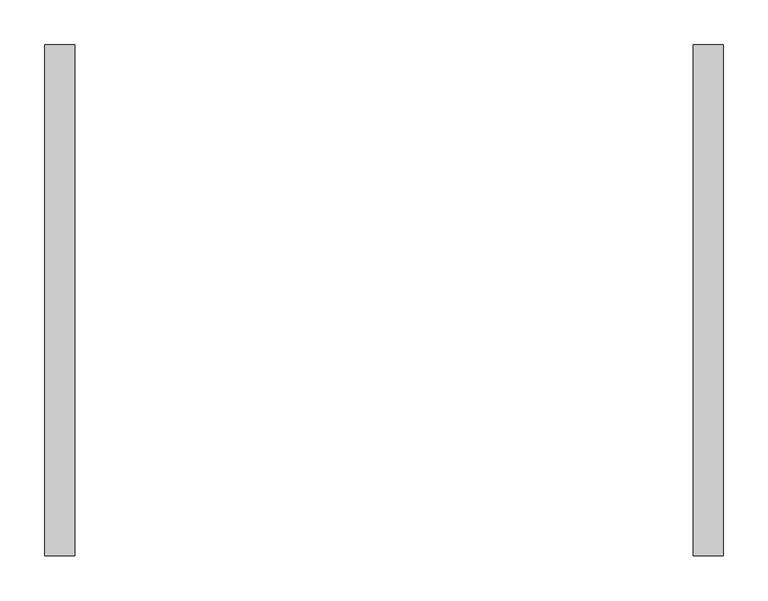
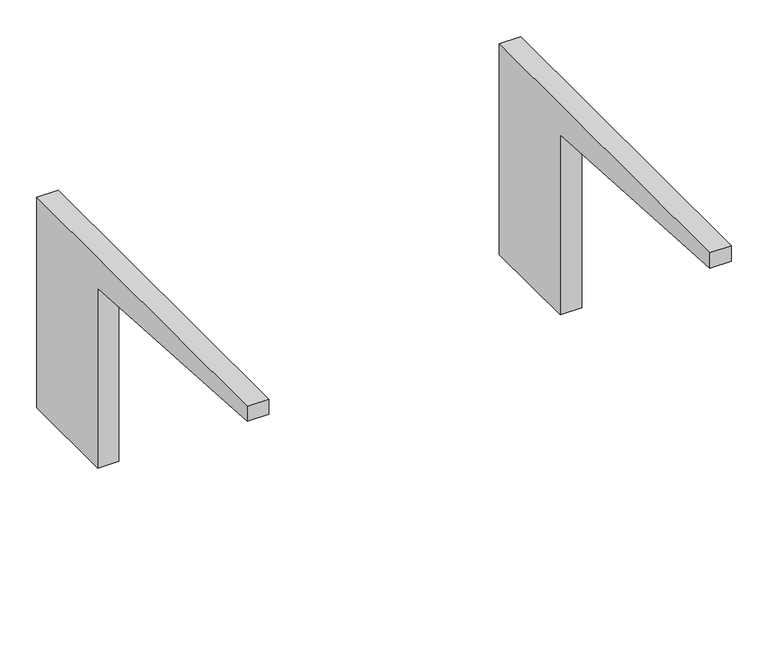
"""IFC4 building model written with IfcOpenShell, lengths in millimetres: furniture geometry, HermanMiller_CoStruc_C2140R_WorkSurfaceSupport_ComponentAdaptorReady : 14H x 24D x 30W."""

from ifc_helpers import new_model, si_unit, point, frame, frame_2d, origin, place, context, project, spatial, polyline, circle_curve, trimmed, segment, composite_curve, outline, extrude, source, transform, mapped, element, save


def furniture_439713d6(model_context):
    return source(origin(), model_context, "Body", "SweptSolid", [
        extrude(outline(composite_curve([segment(polyline([(177.8, 882.65), (177.8, 533.4), (12.7, 533.4), (12.7, 831.85)]), True, "CONTINUOUS"), segment(trimmed(circle_curve(frame_2d((-388.143904, -2317.7524637)), 3175.0073252), [point((12.7, 831.85))], [point((-393.7, 857.25))], True, "CARTESIAN"), True, "CONTINUOUS"), segment(polyline([(-393.7, 857.25), (-393.7, 882.65), (177.8, 882.65)]), True, "CONTINUOUS")], self_intersect=False)), frame((346.075, 0.0, 0.0), z_axis=(1.0, 0.0, 0.0), x_axis=(0.0, 1.0, 0.0)), (0.0, 0.0, 1.0), 33.3375),
        extrude(outline(composite_curve([segment(polyline([(-393.7, 857.25), (-393.7, 882.65), (177.8, 882.65), (177.8, 533.4), (12.7, 533.4), (12.7, 831.85)]), True, "CONTINUOUS"), segment(trimmed(circle_curve(frame_2d((-388.143904, -2317.7524637)), 3175.0073252), [point((12.7, 831.85))], [point((-393.7, 857.25))], True, "CARTESIAN"), True, "CONTINUOUS")], self_intersect=False)), frame((-379.4125, 0.0, 0.0), z_axis=(1.0, 0.0, 0.0), x_axis=(0.0, 1.0, 0.0)), (0.0, 0.0, 1.0), 33.3375),
    ])


if __name__ == "__main__":
    model = new_model("IFC4")
    model_context = context("Model", 3, world=origin())
    ifc_project = project(units=[si_unit("LENGTHUNIT", "METRE", prefix="MILLI")], contexts=[model_context])
    site = spatial("IfcSite", under=ifc_project)
    building = spatial("IfcBuilding", under=site)
    placement = place(None, origin())
    furniture_shape = furniture_439713d6(model_context)
    element("IfcFurniture", 1, ObjectType="HermanMiller_CoStruc_C2140R_WorkSurfaceSupport_ComponentAdaptorReady : 14H x 24D x 30W", at=placement, inside=building, context=model_context, shape_type="MappedRepresentation", body=[
        mapped(furniture_shape, transform((0.0, 0.0, 0.0), x_axis=(1.0, 0.0, 0.0), y_axis=(0.0, 1.0, 0.0), z_axis=(0.0, 0.0, 1.0))),
    ])
    save(model, "model.ifc")
